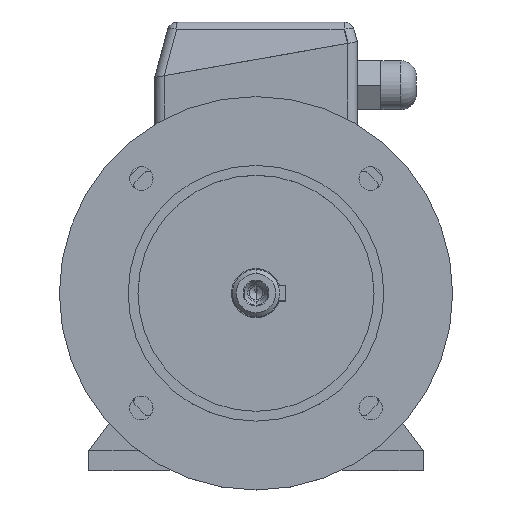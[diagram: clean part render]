
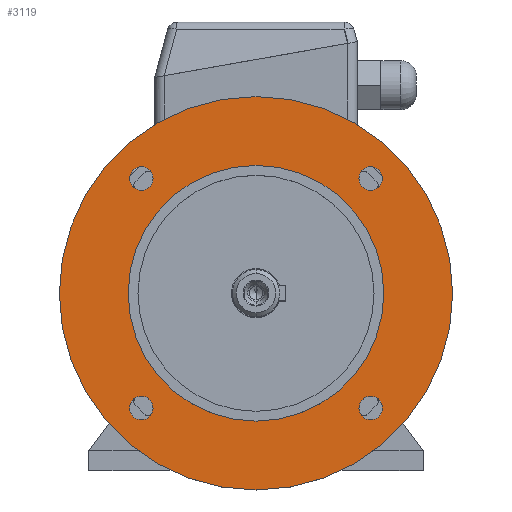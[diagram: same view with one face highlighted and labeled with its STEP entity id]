
A CAD part, top view. The second image highlights one B-rep face of the part: STEP entity #3119.
In plain terms, the highlighted planar face has unit normal (0, 0, 1).
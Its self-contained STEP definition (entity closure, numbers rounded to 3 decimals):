
#50 = CIRCLE ( 'NONE', #51, 6. ) ;
#51 = AXIS2_PLACEMENT_3D ( 'NONE', #52, #53, #54 ) ;
#52 = CARTESIAN_POINT ( 'NONE',  ( -58.336, 58.336, 40. ) ) ;
#53 = DIRECTION ( 'NONE',  ( 0., 0., 1. ) ) ;
#54 = DIRECTION ( 'NONE',  ( 1., 0., 0. ) ) ;
#391 = CIRCLE ( 'NONE', #392, 6. ) ;
#392 = AXIS2_PLACEMENT_3D ( 'NONE', #393, #397, #398 ) ;
#393 = CARTESIAN_POINT ( 'NONE',  ( 58.336, -58.336, 40. ) ) ;
#397 = DIRECTION ( 'NONE',  ( 0., 0., 1. ) ) ;
#398 = DIRECTION ( 'NONE',  ( 1., 0., 0. ) ) ;
#824 = CARTESIAN_POINT ( 'NONE',  ( 52.336, -58.336, 40. ) ) ;
#1159 = CIRCLE ( 'NONE', #1160, 65. ) ;
#1160 = AXIS2_PLACEMENT_3D ( 'NONE', #1161, #1168, #1169 ) ;
#1161 = CARTESIAN_POINT ( 'NONE',  ( 0., 0., 40. ) ) ;
#1168 = DIRECTION ( 'NONE',  ( 0., 0., -1. ) ) ;
#1169 = DIRECTION ( 'NONE',  ( 0., 1., 0. ) ) ;
#1373 = CARTESIAN_POINT ( 'NONE',  ( 64.336, 58.336, 40. ) ) ;
#1463 = CIRCLE ( 'NONE', #1471, 6. ) ;
#1471 = AXIS2_PLACEMENT_3D ( 'NONE', #1472, #1473, #1474 ) ;
#1472 = CARTESIAN_POINT ( 'NONE',  ( 58.336, 58.336, 40. ) ) ;
#1473 = DIRECTION ( 'NONE',  ( 0., 0., 1. ) ) ;
#1474 = DIRECTION ( 'NONE',  ( 1., 0., 0. ) ) ;
#1954 = CARTESIAN_POINT ( 'NONE',  ( 52.336, 58.336, 40. ) ) ;
#2335 = CIRCLE ( 'NONE', #2336, 6. ) ;
#2336 = AXIS2_PLACEMENT_3D ( 'NONE', #2337, #2338, #2339 ) ;
#2337 = CARTESIAN_POINT ( 'NONE',  ( 58.336, 58.336, 40. ) ) ;
#2338 = DIRECTION ( 'NONE',  ( 0., 0., 1. ) ) ;
#2339 = DIRECTION ( 'NONE',  ( 1., 0., 0. ) ) ;
#3055 = EDGE_LOOP ( 'NONE', ( #5318, #5068 ) ) ;
#3119 = ADVANCED_FACE ( 'NONE', ( #7243, #7244, #7245, #7246, #7247, #7248 ), #7249, .T. ) ;
#3162 = VERTEX_POINT ( 'NONE', #7365 ) ;
#3214 = EDGE_CURVE ( 'NONE', #3433, #3162, #7455, .T. ) ;
#3218 = VERTEX_POINT ( 'NONE', #7470 ) ;
#3268 = EDGE_CURVE ( 'NONE', #3218, #3490, #7544, .T. ) ;
#3433 = VERTEX_POINT ( 'NONE', #7904 ) ;
#3490 = VERTEX_POINT ( 'NONE', #8029 ) ;
#3515 = EDGE_CURVE ( 'NONE', #4879, #4934, #8062, .T. ) ;
#4210 = EDGE_LOOP ( 'NONE', ( #10328, #9356 ) ) ;
#4274 = ORIENTED_EDGE ( 'NONE', *, *, #5666, .F. ) ;
#4280 = VERTEX_POINT ( 'NONE', #9961 ) ;
#4341 = EDGE_CURVE ( 'NONE', #4550, #4280, #10209, .T. ) ;
#4410 = EDGE_CURVE ( 'NONE', #4797, #6613, #10547, .T. ) ;
#4496 = ORIENTED_EDGE ( 'NONE', *, *, #4410, .F. ) ;
#4550 = VERTEX_POINT ( 'NONE', #11111 ) ;
#4623 = EDGE_LOOP ( 'NONE', ( #4496, #4274 ) ) ;
#4681 = ORIENTED_EDGE ( 'NONE', *, *, #4341, .F. ) ;
#4797 = VERTEX_POINT ( 'NONE', #11673 ) ;
#4798 = EDGE_CURVE ( 'NONE', #4280, #4550, #11674, .T. ) ;
#4879 = VERTEX_POINT ( 'NONE', #11865 ) ;
#4894 = ORIENTED_EDGE ( 'NONE', *, *, #4798, .F. ) ;
#4934 = VERTEX_POINT ( 'NONE', #11978 ) ;
#4983 = EDGE_CURVE ( 'NONE', #4934, #4879, #12065, .T. ) ;
#5014 = EDGE_LOOP ( 'NONE', ( #4894, #4681 ) ) ;
#5068 = ORIENTED_EDGE ( 'NONE', *, *, #3214, .F. ) ;
#5200 = EDGE_CURVE ( 'NONE', #3162, #3433, #50, .T. ) ;
#5318 = ORIENTED_EDGE ( 'NONE', *, *, #5200, .F. ) ;
#5666 = EDGE_CURVE ( 'NONE', #6613, #4797, #391, .T. ) ;
#5926 = ORIENTED_EDGE ( 'NONE', *, *, #3515, .F. ) ;
#6493 = ORIENTED_EDGE ( 'NONE', *, *, #4983, .F. ) ;
#6613 = VERTEX_POINT ( 'NONE', #824 ) ;
#7070 = EDGE_LOOP ( 'NONE', ( #6493, #5926 ) ) ;
#7243 = FACE_BOUND ( 'NONE', #3055, .T. ) ;
#7244 = FACE_BOUND ( 'NONE', #5014, .T. ) ;
#7245 = FACE_BOUND ( 'NONE', #4623, .T. ) ;
#7246 = FACE_BOUND ( 'NONE', #4210, .T. ) ;
#7247 = FACE_BOUND ( 'NONE', #9087, .T. ) ;
#7248 = FACE_OUTER_BOUND ( 'NONE', #7070, .T. ) ;
#7249 = PLANE ( 'NONE',  #7250 ) ;
#7250 = AXIS2_PLACEMENT_3D ( 'NONE', #7251, #7252, #7253 ) ;
#7251 = CARTESIAN_POINT ( 'NONE',  ( 0., 100., 40. ) ) ;
#7252 = DIRECTION ( 'NONE',  ( 0., 0., 1. ) ) ;
#7253 = DIRECTION ( 'NONE',  ( 0., -1., 0. ) ) ;
#7341 = EDGE_CURVE ( 'NONE', #3490, #3218, #1159, .T. ) ;
#7365 = CARTESIAN_POINT ( 'NONE',  ( -52.336, 58.336, 40. ) ) ;
#7455 = CIRCLE ( 'NONE', #7456, 6. ) ;
#7456 = AXIS2_PLACEMENT_3D ( 'NONE', #7457, #7458, #7459 ) ;
#7457 = CARTESIAN_POINT ( 'NONE',  ( -58.336, 58.336, 40. ) ) ;
#7458 = DIRECTION ( 'NONE',  ( 0., 0., 1. ) ) ;
#7459 = DIRECTION ( 'NONE',  ( 1., 0., 0. ) ) ;
#7470 = CARTESIAN_POINT ( 'NONE',  ( 0., 65., 40. ) ) ;
#7544 = CIRCLE ( 'NONE', #7548, 65. ) ;
#7548 = AXIS2_PLACEMENT_3D ( 'NONE', #7549, #7550, #7551 ) ;
#7549 = CARTESIAN_POINT ( 'NONE',  ( 0., 0., 40. ) ) ;
#7550 = DIRECTION ( 'NONE',  ( 0., 0., -1. ) ) ;
#7551 = DIRECTION ( 'NONE',  ( 0., 1., 0. ) ) ;
#7747 = ORIENTED_EDGE ( 'NONE', *, *, #7341, .T. ) ;
#7809 = VERTEX_POINT ( 'NONE', #1373 ) ;
#7904 = CARTESIAN_POINT ( 'NONE',  ( -64.336, 58.336, 40. ) ) ;
#8029 = CARTESIAN_POINT ( 'NONE',  ( 0., -65., 40. ) ) ;
#8055 = EDGE_CURVE ( 'NONE', #9187, #7809, #1463, .T. ) ;
#8062 = CIRCLE ( 'NONE', #8063, 100. ) ;
#8063 = AXIS2_PLACEMENT_3D ( 'NONE', #8064, #8065, #8066 ) ;
#8064 = CARTESIAN_POINT ( 'NONE',  ( 0., 0., 40. ) ) ;
#8065 = DIRECTION ( 'NONE',  ( 0., 0., -1. ) ) ;
#8066 = DIRECTION ( 'NONE',  ( 0., 1., 0. ) ) ;
#8318 = ORIENTED_EDGE ( 'NONE', *, *, #3268, .T. ) ;
#9087 = EDGE_LOOP ( 'NONE', ( #8318, #7747 ) ) ;
#9187 = VERTEX_POINT ( 'NONE', #1954 ) ;
#9356 = ORIENTED_EDGE ( 'NONE', *, *, #8055, .F. ) ;
#9928 = EDGE_CURVE ( 'NONE', #7809, #9187, #2335, .T. ) ;
#9961 = CARTESIAN_POINT ( 'NONE',  ( -52.336, -58.336, 40. ) ) ;
#10209 = CIRCLE ( 'NONE', #10210, 6. ) ;
#10210 = AXIS2_PLACEMENT_3D ( 'NONE', #10211, #10212, #10213 ) ;
#10211 = CARTESIAN_POINT ( 'NONE',  ( -58.336, -58.336, 40. ) ) ;
#10212 = DIRECTION ( 'NONE',  ( 0., 0., 1. ) ) ;
#10213 = DIRECTION ( 'NONE',  ( 1., 0., 0. ) ) ;
#10328 = ORIENTED_EDGE ( 'NONE', *, *, #9928, .F. ) ;
#10547 = CIRCLE ( 'NONE', #10548, 6. ) ;
#10548 = AXIS2_PLACEMENT_3D ( 'NONE', #10549, #10550, #10551 ) ;
#10549 = CARTESIAN_POINT ( 'NONE',  ( 58.336, -58.336, 40. ) ) ;
#10550 = DIRECTION ( 'NONE',  ( 0., 0., 1. ) ) ;
#10551 = DIRECTION ( 'NONE',  ( 1., 0., 0. ) ) ;
#11111 = CARTESIAN_POINT ( 'NONE',  ( -64.336, -58.336, 40. ) ) ;
#11673 = CARTESIAN_POINT ( 'NONE',  ( 64.336, -58.336, 40. ) ) ;
#11674 = CIRCLE ( 'NONE', #11675, 6. ) ;
#11675 = AXIS2_PLACEMENT_3D ( 'NONE', #11676, #11677, #11678 ) ;
#11676 = CARTESIAN_POINT ( 'NONE',  ( -58.336, -58.336, 40. ) ) ;
#11677 = DIRECTION ( 'NONE',  ( 0., 0., 1. ) ) ;
#11678 = DIRECTION ( 'NONE',  ( 1., 0., 0. ) ) ;
#11865 = CARTESIAN_POINT ( 'NONE',  ( 0., -100., 40. ) ) ;
#11978 = CARTESIAN_POINT ( 'NONE',  ( 0., 100., 40. ) ) ;
#12065 = CIRCLE ( 'NONE', #12066, 100. ) ;
#12066 = AXIS2_PLACEMENT_3D ( 'NONE', #12067, #12068, #12069 ) ;
#12067 = CARTESIAN_POINT ( 'NONE',  ( 0., 0., 40. ) ) ;
#12068 = DIRECTION ( 'NONE',  ( 0., 0., -1. ) ) ;
#12069 = DIRECTION ( 'NONE',  ( 0., 1., 0. ) ) ;
